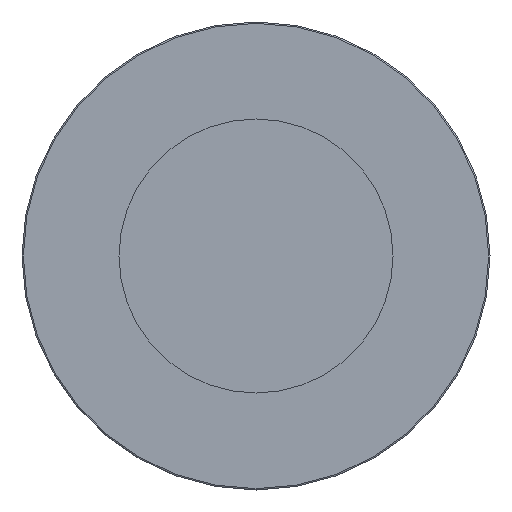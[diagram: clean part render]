
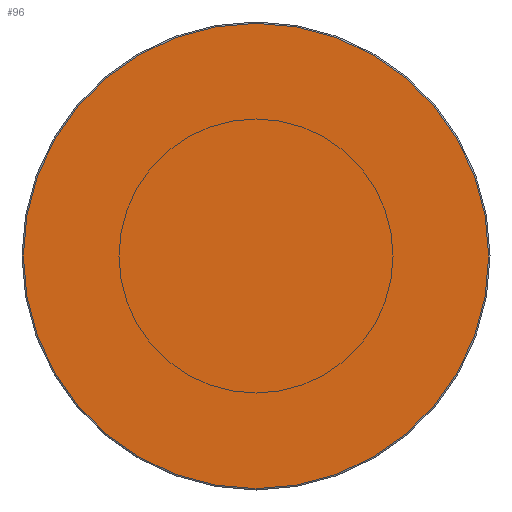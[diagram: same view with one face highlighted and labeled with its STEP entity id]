
A CAD part, front view. The second image highlights one B-rep face of the part: STEP entity #96.
In plain terms, the highlighted planar face has unit normal (0, -1, 0).
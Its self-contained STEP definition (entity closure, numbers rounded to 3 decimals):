
#1=CARTESIAN_POINT('',(0.,-5.,0.));
#2=DIRECTION('',(0.,1.,0.));
#3=DIRECTION('',(0.,0.,1.));
#4=AXIS2_PLACEMENT_3D('',#1,#2,#3);
#6=CARTESIAN_POINT('',(0.,-5.,0.));
#7=DIRECTION('',(0.,1.,0.));
#8=DIRECTION('',(0.,0.,-1.));
#9=AXIS2_PLACEMENT_3D('',#6,#7,#8);
#81=CARTESIAN_POINT('',(0.,-5.,34.8));
#82=CARTESIAN_POINT('',(0.,-5.,-34.8));
#83=VERTEX_POINT('',#81);
#84=VERTEX_POINT('',#82);
#85=CARTESIAN_POINT('',(0.,-5.,0.));
#86=DIRECTION('',(0.,-1.,0.));
#87=DIRECTION('',(0.,0.,-1.));
#88=AXIS2_PLACEMENT_3D('',#85,#86,#87);
#89=PLANE('',#88);
#91=ORIENTED_EDGE('',*,*,#90,.T.);
#93=ORIENTED_EDGE('',*,*,#92,.T.);
#94=EDGE_LOOP('',(#91,#93));
#95=FACE_OUTER_BOUND('',#94,.F.);
#96=ADVANCED_FACE('',(#95),#89,.T.);
#5=CIRCLE('',#4,34.8);
#10=CIRCLE('',#9,34.8);
#90=EDGE_CURVE('',#83,#84,#5,.T.);
#92=EDGE_CURVE('',#84,#83,#10,.T.);
